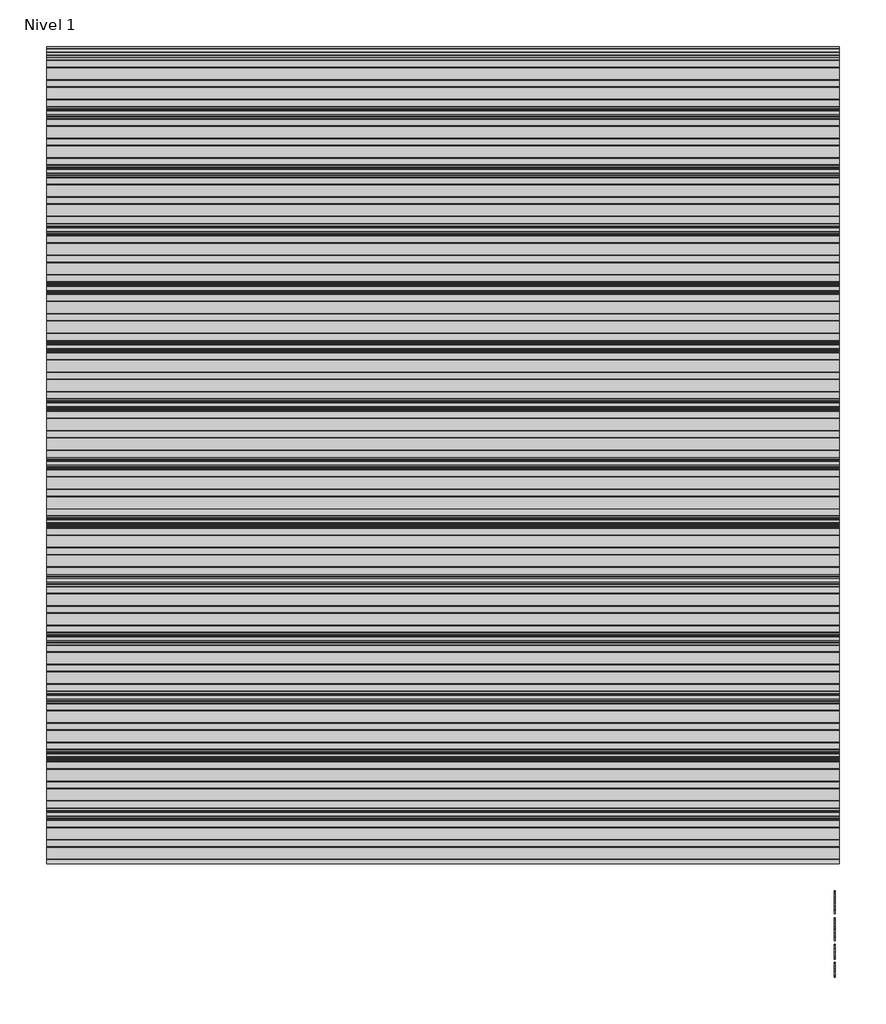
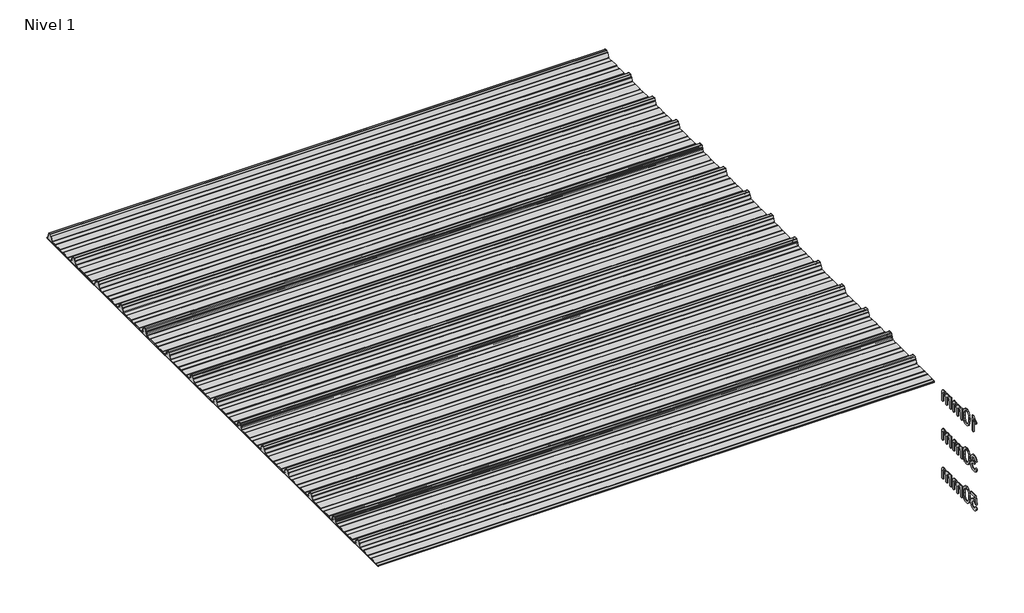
# One storey, incomplete: 4 plates, 3 proxies.
"""IFC4 building model written with IfcOpenShell, lengths in millimetres."""

from ifc_helpers import new_model, si_unit, frame, origin, place, context, project, spatial, polyline, outline, extrude, transform, mapped, element, save
from components import plate_10_mm_16896bcf, plate_10_mm_8220b348, plate_10_mm_17697db5

model = new_model("IFC4")

# Units and contexts
model_context = context("Model", 3, world=origin())
ifc_project = project(units=[si_unit("LENGTHUNIT", "METRE", prefix="MILLI")], contexts=[model_context])

# Site, building, storey
site = spatial("IfcSite", under=ifc_project)
building = spatial("IfcBuilding", under=site)
storey = spatial("IfcBuildingStorey", under=building, Name="Nivel 1", Elevation=0.0)

# Proxies
placement = place(None, origin())
element("IfcBuildingElementProxy", 1, Name="100mm Arial", ObjectType="100mm Arial", at=placement, inside=storey, context=model_context, shape_type="SweptSolid", body=[
    extrude(outline(polyline([(14858.722162, -317.141573), (14846.1651232, -317.141573), (14846.1651232, -238.8562845), (14834.270272, -247.3298331), (14821.0510457, -253.6696661), (14821.0510457, -241.7993404), (14839.4574082, -230.051642), (14850.6287581, -216.6852629), (14858.722162, -216.6852629), (14858.722162, -317.141573)])), frame((9557.0230098, 0.0, 0.0), z_axis=(1.0, 0.0, 0.0), x_axis=(0.0, 1.0, 0.0)), (0.0, 0.0, 1.0), 5.0),
    extrude(outline(polyline([(14888.5451291, -267.7227583), (14892.2362118, -238.8194963), (14903.1990952, -222.1544419), (14921.5073558, -216.6852629), (14936.1735847, -219.9226244), (14946.3026023, -229.2545644), (14952.1887142, -244.116997), (14954.4695826, -267.7227583), (14950.8152881, -296.5033931), (14939.8891929, -313.2052357), (14931.6578332, -317.3347111), (14921.5073558, -318.7112029), (14908.4598077, -316.3199699), (14898.5515193, -309.146271), (14891.0467266, -292.1562542), (14888.5451291, -267.7227583)]), holes=[polyline([(14901.1021678, -267.6982329), (14902.5736958, -287.4504303), (14906.9882798, -298.8823633), (14913.5611047, -304.3362139), (14921.5073558, -306.1541641), (14929.4536069, -304.3300825), (14936.0264319, -298.8578379), (14940.4410159, -287.4197735), (14941.9125438, -267.6982329), (14940.4900668, -248.3905595), (14936.2226356, -236.8697217), (14929.6620734, -231.1491567), (14921.360203, -229.2423016), (14913.4997911, -230.9222961), (14907.1844835, -235.9622794), (14902.6227467, -248.2004871), (14901.1021678, -267.6982329)])]), frame((9557.0230098, 0.0, 0.0), z_axis=(1.0, 0.0, 0.0), x_axis=(0.0, 1.0, 0.0)), (0.0, 0.0, 1.0), 5.0),
    extrude(outline(polyline([(14968.5962512, -317.141573), (14968.5962512, -243.3689703), (14981.15329, -243.3689703), (14981.15329, -255.5090761), (14989.7862541, -245.5639995), (15002.0735128, -241.7993404), (15014.655077, -245.6375759), (15021.5712585, -256.3919929), (15031.3691823, -245.4475035), (15043.7422801, -241.7993404), (15053.181519, -243.3168536), (15060.1620798, -247.8693933), (15064.4754962, -255.5795868), (15065.9133017, -266.5700614), (15065.9133017, -317.141573), (15053.3562629, -317.141573), (15053.3562629, -271.965664), (15052.1913033, -261.4810272), (15047.972923, -256.3184165), (15040.7992241, -254.3563792), (15028.4506518, -259.3840998), (15024.7626348, -265.9262679), (15023.5332958, -275.4973312), (15023.5332958, -317.141573), (15010.9762571, -317.141573), (15010.9762571, -270.5677124), (15008.0699893, -258.4030811), (14998.5418456, -254.3563792), (14989.2466939, -257.0541805), (14983.0662764, -264.9513806), (14981.15329, -279.9364406), (14981.15329, -317.141573), (14968.5962512, -317.141573)])), frame((9557.0230098, 0.0, 0.0), z_axis=(1.0, 0.0, 0.0), x_axis=(0.0, 1.0, 0.0)), (0.0, 0.0, 1.0), 5.0),
    extrude(outline(polyline([(15084.7488598, -317.141573), (15084.7488598, -243.3689703), (15097.3058986, -243.3689703), (15097.3058986, -255.5090761), (15105.9388628, -245.5639995), (15118.2261214, -241.7993404), (15130.8076856, -245.6375759), (15137.7238671, -256.3919929), (15147.5217909, -245.4475035), (15159.8948887, -241.7993404), (15169.3341276, -243.3168536), (15176.3146884, -247.8693933), (15180.6281048, -255.5795868), (15182.0659103, -266.5700614), (15182.0659103, -317.141573), (15169.5088715, -317.141573), (15169.5088715, -271.965664), (15168.3439119, -261.4810272), (15164.1255317, -256.3184165), (15156.9518327, -254.3563792), (15144.6032604, -259.3840998), (15140.9152434, -265.9262679), (15139.6859044, -275.4973312), (15139.6859044, -317.141573), (15127.1288657, -317.141573), (15127.1288657, -270.5677124), (15124.2225979, -258.4030811), (15114.6944542, -254.3563792), (15105.3993025, -257.0541805), (15099.218885, -264.9513806), (15097.3058986, -279.9364406), (15097.3058986, -317.141573), (15084.7488598, -317.141573)])), frame((9557.0230098, 0.0, 0.0), z_axis=(1.0, 0.0, 0.0), x_axis=(0.0, 1.0, 0.0)), (0.0, 0.0, 1.0), 5.0),
])
element("IfcBuildingElementProxy", 2, Name="100mm Arial", ObjectType="100mm Arial", at=placement, inside=storey, context=model_context, shape_type="SweptSolid", body=[
    extrude(outline(polyline([(14811.6332666, -540.4578656), (14824.1903054, -538.8882358), (14831.1187496, -552.1074622), (14844.0804586, -556.1541641), (14852.6888973, -554.7623439), (14859.3352987, -550.5868832), (14865.0006814, -536.8035712), (14859.3843496, -523.8173367), (14845.1105282, -518.6792515), (14836.3058858, -520.0526776), (14837.7038373, -507.4956389), (14839.7149256, -507.6427917), (14853.9642215, -504.0375481), (14858.7098993, -499.4635487), (14860.2917918, -492.9520373), (14855.7055296, -483.1295881), (14843.8842549, -479.2423016), (14831.9158273, -483.1663763), (14825.7599352, -494.9386001), (14813.2028965, -493.3689703), (14816.9001105, -482.0933871), (14823.4790669, -473.6750208), (14832.479913, -468.4327024), (14843.4427965, -466.6852629), (14858.5872719, -470.1310909), (14869.1822734, -479.54887), (14872.8488306, -492.2162733), (14869.3662144, -503.7922935), (14859.0655185, -512.1064266), (14872.7507287, -520.6903398), (14877.5577201, -537.0243004), (14875.1542244, -549.2625081), (14867.9437373, -559.4896275), (14857.0605616, -566.405809), (14843.6390002, -568.7112029), (14831.4988943, -566.7430342), (14821.6151314, -560.8385282), (14814.7418695, -551.8070252), (14811.6332666, -540.4578656)])), frame((9557.0230098, 0.0, 0.0), z_axis=(1.0, 0.0, 0.0), x_axis=(0.0, 1.0, 0.0)), (0.0, 0.0, 1.0), 5.0),
    extrude(outline(polyline([(14888.5451291, -517.7227583), (14892.2362118, -488.8194963), (14903.1990952, -472.1544419), (14921.5073558, -466.6852629), (14936.1735847, -469.9226244), (14946.3026023, -479.2545644), (14952.1887142, -494.116997), (14954.4695826, -517.7227583), (14950.8152881, -546.5033931), (14939.8891929, -563.2052357), (14931.6578332, -567.3347111), (14921.5073558, -568.7112029), (14908.4598077, -566.3199699), (14898.5515193, -559.146271), (14891.0467266, -542.1562542), (14888.5451291, -517.7227583)]), holes=[polyline([(14901.1021678, -517.6982329), (14902.5736958, -537.4504303), (14906.9882798, -548.8823633), (14913.5611047, -554.3362139), (14921.5073558, -556.1541641), (14929.4536069, -554.3300825), (14936.0264319, -548.8578379), (14940.4410159, -537.4197735), (14941.9125438, -517.6982329), (14940.4900668, -498.3905595), (14936.2226356, -486.8697217), (14929.6620734, -481.1491567), (14921.360203, -479.2423016), (14913.4997911, -480.9222961), (14907.1844835, -485.9622794), (14902.6227467, -498.2004871), (14901.1021678, -517.6982329)])]), frame((9557.0230098, 0.0, 0.0), z_axis=(1.0, 0.0, 0.0), x_axis=(0.0, 1.0, 0.0)), (0.0, 0.0, 1.0), 5.0),
    extrude(outline(polyline([(14968.5962512, -567.141573), (14968.5962512, -493.3689703), (14981.15329, -493.3689703), (14981.15329, -505.5090761), (14989.7862541, -495.5639995), (15002.0735128, -491.7993404), (15014.655077, -495.6375759), (15021.5712585, -506.3919929), (15031.3691823, -495.4475035), (15043.7422801, -491.7993404), (15053.181519, -493.3168536), (15060.1620798, -497.8693933), (15064.4754962, -505.5795868), (15065.9133017, -516.5700614), (15065.9133017, -567.141573), (15053.3562629, -567.141573), (15053.3562629, -521.965664), (15052.1913033, -511.4810272), (15047.972923, -506.3184165), (15040.7992241, -504.3563792), (15028.4506518, -509.3840998), (15024.7626348, -515.9262679), (15023.5332958, -525.4973312), (15023.5332958, -567.141573), (15010.9762571, -567.141573), (15010.9762571, -520.5677124), (15008.0699893, -508.4030811), (14998.5418456, -504.3563792), (14989.2466939, -507.0541805), (14983.0662764, -514.9513806), (14981.15329, -529.9364406), (14981.15329, -567.141573), (14968.5962512, -567.141573)])), frame((9557.0230098, 0.0, 0.0), z_axis=(1.0, 0.0, 0.0), x_axis=(0.0, 1.0, 0.0)), (0.0, 0.0, 1.0), 5.0),
    extrude(outline(polyline([(15084.7488598, -567.141573), (15084.7488598, -493.3689703), (15097.3058986, -493.3689703), (15097.3058986, -505.5090761), (15105.9388628, -495.5639995), (15118.2261214, -491.7993404), (15130.8076856, -495.6375759), (15137.7238671, -506.3919929), (15147.5217909, -495.4475035), (15159.8948887, -491.7993404), (15169.3341276, -493.3168536), (15176.3146884, -497.8693933), (15180.6281048, -505.5795868), (15182.0659103, -516.5700614), (15182.0659103, -567.141573), (15169.5088715, -567.141573), (15169.5088715, -521.965664), (15168.3439119, -511.4810272), (15164.1255317, -506.3184165), (15156.9518327, -504.3563792), (15144.6032604, -509.3840998), (15140.9152434, -515.9262679), (15139.6859044, -525.4973312), (15139.6859044, -567.141573), (15127.1288657, -567.141573), (15127.1288657, -520.5677124), (15124.2225979, -508.4030811), (15114.6944542, -504.3563792), (15105.3993025, -507.0541805), (15099.218885, -514.9513806), (15097.3058986, -529.9364406), (15097.3058986, -567.141573), (15084.7488598, -567.141573)])), frame((9557.0230098, 0.0, 0.0), z_axis=(1.0, 0.0, 0.0), x_axis=(0.0, 1.0, 0.0)), (0.0, 0.0, 1.0), 5.0),
])
element("IfcBuildingElementProxy", 3, Name="100mm Arial", ObjectType="100mm Arial", at=placement, inside=storey, context=model_context, shape_type="SweptSolid", body=[
    extrude(outline(polyline([(14811.6332666, -790.4578656), (14824.1903054, -788.8882358), (14830.5178757, -801.8254193), (14843.6390002, -806.1541641), (14852.6398463, -804.6489136), (14859.3843496, -800.1331621), (14863.5965984, -793.1280758), (14865.0006814, -784.1548208), (14859.7399688, -769.2433373), (14853.1334213, -765.141453), (14843.8352039, -763.7741583), (14832.8110068, -765.9569248), (14825.7599352, -771.6223075), (14813.2028965, -770.0526776), (14824.1903054, -718.2548927), (14872.8488306, -718.2548927), (14872.8488306, -730.8119315), (14834.3438484, -730.8119315), (14828.9727713, -758.4766575), (14837.9429606, -753.032004), (14847.3423456, -751.2171195), (14859.0747156, -753.467331), (14868.8143914, -760.2179656), (14875.371888, -770.5063988), (14877.5577201, -783.3700059), (14875.5895515, -795.9270446), (14869.6850454, -806.6691989), (14858.3788055, -815.7007019), (14843.5899493, -818.7112029), (14831.2567054, -816.7767567), (14821.4311904, -810.9734182), (14814.6958842, -801.9756378), (14811.6332666, -790.4578656)])), frame((9557.0230098, 0.0, 0.0), z_axis=(1.0, 0.0, 0.0), x_axis=(0.0, 1.0, 0.0)), (0.0, 0.0, 1.0), 5.0),
    extrude(outline(polyline([(14888.5451291, -767.7227583), (14892.2362118, -738.8194963), (14903.1990952, -722.1544419), (14921.5073558, -716.6852629), (14936.1735847, -719.9226244), (14946.3026023, -729.2545644), (14952.1887142, -744.116997), (14954.4695826, -767.7227583), (14950.8152881, -796.5033931), (14939.8891929, -813.2052357), (14931.6578332, -817.3347111), (14921.5073558, -818.7112029), (14908.4598077, -816.3199699), (14898.5515193, -809.146271), (14891.0467266, -792.1562542), (14888.5451291, -767.7227583)]), holes=[polyline([(14901.1021678, -767.6982329), (14902.5736958, -787.4504303), (14906.9882798, -798.8823633), (14913.5611047, -804.3362139), (14921.5073558, -806.1541641), (14929.4536069, -804.3300825), (14936.0264319, -798.8578379), (14940.4410159, -787.4197735), (14941.9125438, -767.6982329), (14940.4900668, -748.3905595), (14936.2226356, -736.8697217), (14929.6620734, -731.1491567), (14921.360203, -729.2423016), (14913.4997911, -730.9222961), (14907.1844835, -735.9622794), (14902.6227467, -748.2004871), (14901.1021678, -767.6982329)])]), frame((9557.0230098, 0.0, 0.0), z_axis=(1.0, 0.0, 0.0), x_axis=(0.0, 1.0, 0.0)), (0.0, 0.0, 1.0), 5.0),
    extrude(outline(polyline([(14968.5962512, -817.141573), (14968.5962512, -743.3689703), (14981.15329, -743.3689703), (14981.15329, -755.5090761), (14989.7862541, -745.5639995), (15002.0735128, -741.7993404), (15014.655077, -745.6375759), (15021.5712585, -756.3919929), (15031.3691823, -745.4475035), (15043.7422801, -741.7993404), (15053.181519, -743.3168536), (15060.1620798, -747.8693933), (15064.4754962, -755.5795868), (15065.9133017, -766.5700614), (15065.9133017, -817.141573), (15053.3562629, -817.141573), (15053.3562629, -771.965664), (15052.1913033, -761.4810272), (15047.972923, -756.3184165), (15040.7992241, -754.3563792), (15028.4506518, -759.3840998), (15024.7626348, -765.9262679), (15023.5332958, -775.4973312), (15023.5332958, -817.141573), (15010.9762571, -817.141573), (15010.9762571, -770.5677124), (15008.0699893, -758.4030811), (14998.5418456, -754.3563792), (14989.2466939, -757.0541805), (14983.0662764, -764.9513806), (14981.15329, -779.9364406), (14981.15329, -817.141573), (14968.5962512, -817.141573)])), frame((9557.0230098, 0.0, 0.0), z_axis=(1.0, 0.0, 0.0), x_axis=(0.0, 1.0, 0.0)), (0.0, 0.0, 1.0), 5.0),
    extrude(outline(polyline([(15084.7488598, -817.141573), (15084.7488598, -743.3689703), (15097.3058986, -743.3689703), (15097.3058986, -755.5090761), (15105.9388628, -745.5639995), (15118.2261214, -741.7993404), (15130.8076856, -745.6375759), (15137.7238671, -756.3919929), (15147.5217909, -745.4475035), (15159.8948887, -741.7993404), (15169.3341276, -743.3168536), (15176.3146884, -747.8693933), (15180.6281048, -755.5795868), (15182.0659103, -766.5700614), (15182.0659103, -817.141573), (15169.5088715, -817.141573), (15169.5088715, -771.965664), (15168.3439119, -761.4810272), (15164.1255317, -756.3184165), (15156.9518327, -754.3563792), (15144.6032604, -759.3840998), (15140.9152434, -765.9262679), (15139.6859044, -775.4973312), (15139.6859044, -817.141573), (15127.1288657, -817.141573), (15127.1288657, -770.5677124), (15124.2225979, -758.4030811), (15114.6944542, -754.3563792), (15105.3993025, -757.0541805), (15099.218885, -764.9513806), (15097.3058986, -779.9364406), (15097.3058986, -817.141573), (15084.7488598, -817.141573)])), frame((9557.0230098, 0.0, 0.0), z_axis=(1.0, 0.0, 0.0), x_axis=(0.0, 1.0, 0.0)), (0.0, 0.0, 1.0), 5.0),
])

# Plates
plate_10_mm_shape = plate_10_mm_16896bcf(model_context)
plate_10_mm_2_shape = plate_10_mm_8220b348(model_context)
element("IfcPlate", 4, ObjectType="HIANSA PANEL - H20.F01.007-PANELES DE CUBIERTA SIN TAPAJUNTA - EASY AGRO 5GR - Panel de Muro Cortina : 10 mm", at=placement, inside=storey, context=model_context, shape_type="MappedRepresentation", body=[
    mapped(plate_10_mm_shape, transform((9579.0356399, 18298.3330794, -279.5962409), x_axis=(0.0, -1.0, 0.0), y_axis=(0.0, 0.0, 1.0), z_axis=(-1.0, 0.0, 0.0))),
    mapped(plate_10_mm_2_shape, transform((9579.0356399, 18298.3330794, -279.5962409), x_axis=(0.0, -1.0, 0.0), y_axis=(0.0, 0.0, 1.0), z_axis=(-1.0, 0.0, 0.0))),
])
element("IfcPlate", 5, ObjectType="HIANSA PANEL - H20.F01.007-PANELES DE CUBIERTA SIN TAPAJUNTA - EASY AGRO 5GR - Panel de Muro Cortina : 10 mm", at=placement, inside=storey, context=model_context, shape_type="MappedRepresentation", body=[
    mapped(plate_10_mm_shape, transform((9579.0356399, 17298.3330793, -279.5962409), x_axis=(0.0, -1.0, 0.0), y_axis=(0.0, 0.0, 1.0), z_axis=(-1.0, 0.0, 0.0))),
    mapped(plate_10_mm_2_shape, transform((9579.0356399, 17298.3330793, -279.5962409), x_axis=(0.0, -1.0, 0.0), y_axis=(0.0, 0.0, 1.0), z_axis=(-1.0, 0.0, 0.0))),
])
element("IfcPlate", 6, ObjectType="HIANSA PANEL - H20.F01.007-PANELES DE CUBIERTA SIN TAPAJUNTA - EASY AGRO 5GR - Panel de Muro Cortina : 10 mm", at=placement, inside=storey, context=model_context, shape_type="MappedRepresentation", body=[
    mapped(plate_10_mm_shape, transform((9579.0356399, 16298.3330793, -279.5962409), x_axis=(0.0, -1.0, 0.0), y_axis=(0.0, 0.0, 1.0), z_axis=(-1.0, 0.0, 0.0))),
    mapped(plate_10_mm_2_shape, transform((9579.0356399, 16298.3330793, -279.5962409), x_axis=(0.0, -1.0, 0.0), y_axis=(0.0, 0.0, 1.0), z_axis=(-1.0, 0.0, 0.0))),
])
plate_10_mm_3_shape = plate_10_mm_17697db5(model_context)
element("IfcPlate", 7, ObjectType="HIANSA PANEL - H20.F01.007-PANELES DE CUBIERTA SIN TAPAJUNTA - EASY AGRO 5GR - Panel de Muro Cortina : 10 mm", at=placement, inside=storey, context=model_context, shape_type="MappedRepresentation", body=[
    mapped(plate_10_mm_3_shape, transform((9579.0356399, 15548.3330794, -279.5962409), x_axis=(0.0, -1.0, 0.0), y_axis=(0.0, 0.0, 1.0), z_axis=(-1.0, 0.0, 0.0))),
])

save(model, "model.ifc")
